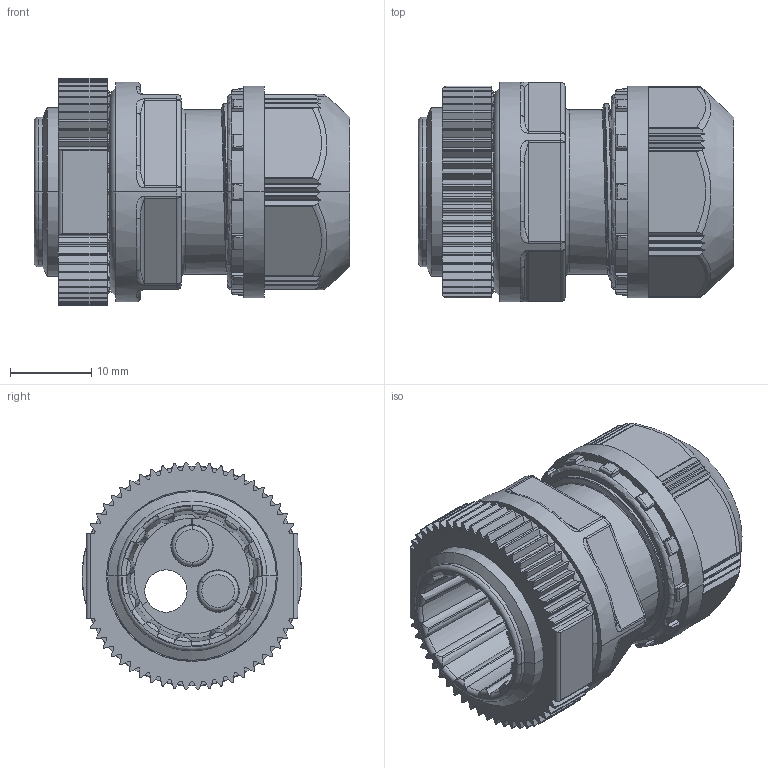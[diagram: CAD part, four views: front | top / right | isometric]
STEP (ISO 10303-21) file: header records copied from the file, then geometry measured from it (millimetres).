
FILE_DESCRIPTION(('Creo Elements/Direct Modeling STEP Export'),'2;1');
FILE_NAME('1H11-0010-CL901-2_OA-W16-0503RS.stp','2021-11-05T13:46:25',(''),(''),'Creo Elements/Direct Modeling STEP processor for AP214 (Solid Model)','Creo Elements/Direct Modeling 20.3B 05-Dec-2020 (C) Parametric Technology GmbH','');
FILE_SCHEMA(('AUTOMOTIVE_DESIGN { 1 0 10303 214 1 1 1 1 }'));
Length unit declared in the file: millimetre
Products named in the file (6): BB-050S_1; BB-050S_2; LN-CTG16P; bushing; body; OA-W16-0503RS
Assembly tree (5 placements, depth 2):
  OA-W16-0503RS
    body
    bushing
    LN-CTG16P
    BB-050S_2
    BB-050S_1
Bounding box: 38.7 x 27 x 27.96 mm (x, y, z)
Volume: 13718 mm3; surface area: 10971.2 mm2
Topology: 5 solids, 5 shells, 980 faces, 2816 edges, 1791 vertices
Faces by surface type: cylinder 373, plane 336, bspline 78, torus 72, sphere 69, cone 52
Entity records: 40943 total; most frequent: CARTESIAN_POINT 15931, ORIENTED_EDGE 5494, DIRECTION 4898, EDGE_CURVE 2747, AXIS2_PLACEMENT_3D 1822, VERTEX_POINT 1791, VECTOR 1254, LINE 1254
